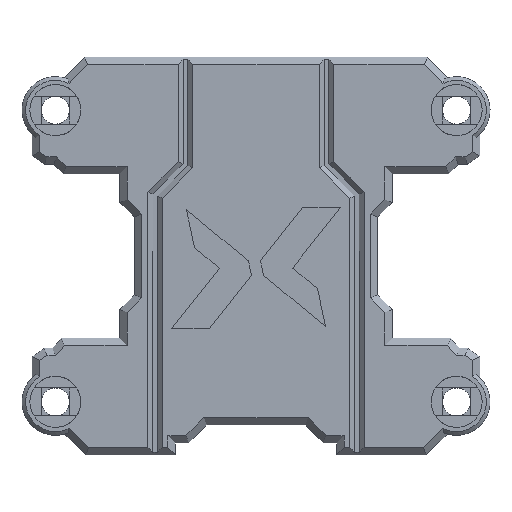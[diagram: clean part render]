
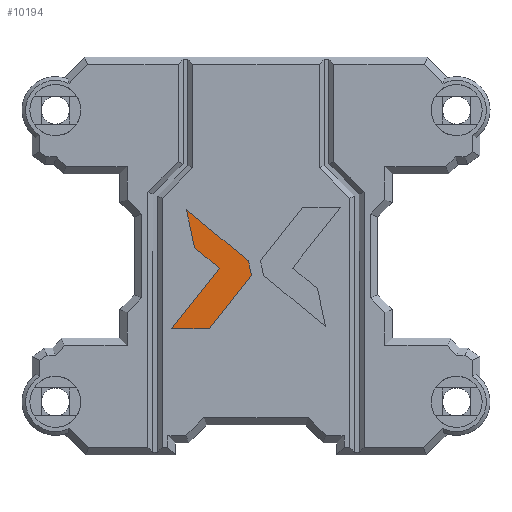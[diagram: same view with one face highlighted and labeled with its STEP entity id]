
A CAD part, top view. The second image highlights one B-rep face of the part: STEP entity #10194.
In plain terms, the highlighted planar face has unit normal (0, 0, 1).
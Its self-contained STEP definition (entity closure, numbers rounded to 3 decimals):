
#9952 = PLANE('',#9953);
#9953 = AXIS2_PLACEMENT_3D('',#9954,#9955,#9956);
#9954 = CARTESIAN_POINT('',(-6.948,-6.,9.));
#9955 = DIRECTION('',(-0.786,0.619,0.));
#9956 = DIRECTION('',(0.619,0.786,0.));
#9978 = PLANE('',#9979);
#9979 = AXIS2_PLACEMENT_3D('',#9980,#9981,#9982);
#9980 = CARTESIAN_POINT('',(-3.837,-6.,9.));
#9981 = DIRECTION('',(0.,-1.,0.));
#9982 = DIRECTION('',(-1.,0.,0.));
#10004 = PLANE('',#10005);
#10005 = AXIS2_PLACEMENT_3D('',#10006,#10007,#10008);
#10006 = CARTESIAN_POINT('',(-0.372,-1.6,9.));
#10007 = DIRECTION('',(0.786,-0.619,0.));
#10008 = DIRECTION('',(-0.619,-0.786,0.));
#10031 = PLANE('',#10032);
#10032 = AXIS2_PLACEMENT_3D('',#10033,#10034,#10035);
#10033 = CARTESIAN_POINT('',(-0.628,-0.4,9.));
#10034 = DIRECTION('',(0.978,0.208,-0.));
#10035 = DIRECTION('',(0.208,-0.978,0.));
#10058 = PLANE('',#10059);
#10059 = AXIS2_PLACEMENT_3D('',#10060,#10061,#10062);
#10060 = CARTESIAN_POINT('',(-5.72,3.8,9.));
#10061 = DIRECTION('',(0.636,0.771,-0.));
#10062 = DIRECTION('',(0.771,-0.636,0.));
#10084 = PLANE('',#10085);
#10085 = AXIS2_PLACEMENT_3D('',#10086,#10087,#10088);
#10086 = CARTESIAN_POINT('',(-5.059,0.689,9.));
#10087 = DIRECTION('',(-0.978,-0.208,0.));
#10088 = DIRECTION('',(-0.208,0.978,0.));
#10108 = PLANE('',#10109);
#10109 = AXIS2_PLACEMENT_3D('',#10110,#10111,#10112);
#10110 = CARTESIAN_POINT('',(-3.011,-1.,9.));
#10111 = DIRECTION('',(-0.636,-0.771,0.));
#10112 = DIRECTION('',(-0.771,0.636,0.));
#10122 = EDGE_CURVE('',#10123,#10125,#10127,.T.);
#10123 = VERTEX_POINT('',#10124);
#10124 = CARTESIAN_POINT('',(-3.011,-1.,9.));
#10125 = VERTEX_POINT('',#10126);
#10126 = CARTESIAN_POINT('',(-5.059,0.689,9.));
#10127 = SURFACE_CURVE('',#10128,(#10132,#10139),.PCURVE_S1.);
#10128 = LINE('',#10129,#10130);
#10129 = CARTESIAN_POINT('',(-3.011,-1.,9.));
#10130 = VECTOR('',#10131,1.);
#10131 = DIRECTION('',(-0.771,0.636,0.));
#10132 = PCURVE('',#10108,#10133);
#10133 = DEFINITIONAL_REPRESENTATION('',(#10134),#10138);
#10134 = LINE('',#10135,#10136);
#10135 = CARTESIAN_POINT('',(0.,0.));
#10136 = VECTOR('',#10137,1.);
#10137 = DIRECTION('',(1.,0.));
#10138 = ( GEOMETRIC_REPRESENTATION_CONTEXT(2) 
PARAMETRIC_REPRESENTATION_CONTEXT() REPRESENTATION_CONTEXT('2D SPACE',''
  ) );
#10139 = PCURVE('',#10140,#10145);
#10140 = PLANE('',#10141);
#10141 = AXIS2_PLACEMENT_3D('',#10142,#10143,#10144);
#10142 = CARTESIAN_POINT('',(-3.816,-1.583,9.));
#10143 = DIRECTION('',(-0.,-0.,-1.));
#10144 = DIRECTION('',(-1.,0.,0.));
#10145 = DEFINITIONAL_REPRESENTATION('',(#10146),#10150);
#10146 = LINE('',#10147,#10148);
#10147 = CARTESIAN_POINT('',(-0.805,0.583));
#10148 = VECTOR('',#10149,1.);
#10149 = DIRECTION('',(0.771,0.636));
#10150 = ( GEOMETRIC_REPRESENTATION_CONTEXT(2) 
PARAMETRIC_REPRESENTATION_CONTEXT() REPRESENTATION_CONTEXT('2D SPACE',''
  ) );
#10194 = ADVANCED_FACE('',(#10195),#10140,.F.);
#10195 = FACE_BOUND('',#10196,.F.);
#10196 = EDGE_LOOP('',(#10197,#10220,#10221,#10244,#10267,#10290,#10313)
  );
#10197 = ORIENTED_EDGE('',*,*,#10198,.T.);
#10198 = EDGE_CURVE('',#10199,#10123,#10201,.T.);
#10199 = VERTEX_POINT('',#10200);
#10200 = CARTESIAN_POINT('',(-6.948,-6.,9.));
#10201 = SURFACE_CURVE('',#10202,(#10206,#10213),.PCURVE_S1.);
#10202 = LINE('',#10203,#10204);
#10203 = CARTESIAN_POINT('',(-6.948,-6.,9.));
#10204 = VECTOR('',#10205,1.);
#10205 = DIRECTION('',(0.619,0.786,0.));
#10206 = PCURVE('',#10140,#10207);
#10207 = DEFINITIONAL_REPRESENTATION('',(#10208),#10212);
#10208 = LINE('',#10209,#10210);
#10209 = CARTESIAN_POINT('',(3.132,-4.417));
#10210 = VECTOR('',#10211,1.);
#10211 = DIRECTION('',(-0.619,0.786));
#10212 = ( GEOMETRIC_REPRESENTATION_CONTEXT(2) 
PARAMETRIC_REPRESENTATION_CONTEXT() REPRESENTATION_CONTEXT('2D SPACE',''
  ) );
#10213 = PCURVE('',#9952,#10214);
#10214 = DEFINITIONAL_REPRESENTATION('',(#10215),#10219);
#10215 = LINE('',#10216,#10217);
#10216 = CARTESIAN_POINT('',(0.,0.));
#10217 = VECTOR('',#10218,1.);
#10218 = DIRECTION('',(1.,0.));
#10219 = ( GEOMETRIC_REPRESENTATION_CONTEXT(2) 
PARAMETRIC_REPRESENTATION_CONTEXT() REPRESENTATION_CONTEXT('2D SPACE',''
  ) );
#10220 = ORIENTED_EDGE('',*,*,#10122,.T.);
#10221 = ORIENTED_EDGE('',*,*,#10222,.T.);
#10222 = EDGE_CURVE('',#10125,#10223,#10225,.T.);
#10223 = VERTEX_POINT('',#10224);
#10224 = CARTESIAN_POINT('',(-5.72,3.8,9.));
#10225 = SURFACE_CURVE('',#10226,(#10230,#10237),.PCURVE_S1.);
#10226 = LINE('',#10227,#10228);
#10227 = CARTESIAN_POINT('',(-5.059,0.689,9.));
#10228 = VECTOR('',#10229,1.);
#10229 = DIRECTION('',(-0.208,0.978,0.));
#10230 = PCURVE('',#10140,#10231);
#10231 = DEFINITIONAL_REPRESENTATION('',(#10232),#10236);
#10232 = LINE('',#10233,#10234);
#10233 = CARTESIAN_POINT('',(1.243,2.272));
#10234 = VECTOR('',#10235,1.);
#10235 = DIRECTION('',(0.208,0.978));
#10236 = ( GEOMETRIC_REPRESENTATION_CONTEXT(2) 
PARAMETRIC_REPRESENTATION_CONTEXT() REPRESENTATION_CONTEXT('2D SPACE',''
  ) );
#10237 = PCURVE('',#10084,#10238);
#10238 = DEFINITIONAL_REPRESENTATION('',(#10239),#10243);
#10239 = LINE('',#10240,#10241);
#10240 = CARTESIAN_POINT('',(0.,0.));
#10241 = VECTOR('',#10242,1.);
#10242 = DIRECTION('',(1.,0.));
#10243 = ( GEOMETRIC_REPRESENTATION_CONTEXT(2) 
PARAMETRIC_REPRESENTATION_CONTEXT() REPRESENTATION_CONTEXT('2D SPACE',''
  ) );
#10244 = ORIENTED_EDGE('',*,*,#10245,.T.);
#10245 = EDGE_CURVE('',#10223,#10246,#10248,.T.);
#10246 = VERTEX_POINT('',#10247);
#10247 = CARTESIAN_POINT('',(-0.628,-0.4,9.));
#10248 = SURFACE_CURVE('',#10249,(#10253,#10260),.PCURVE_S1.);
#10249 = LINE('',#10250,#10251);
#10250 = CARTESIAN_POINT('',(-5.72,3.8,9.));
#10251 = VECTOR('',#10252,1.);
#10252 = DIRECTION('',(0.771,-0.636,0.));
#10253 = PCURVE('',#10140,#10254);
#10254 = DEFINITIONAL_REPRESENTATION('',(#10255),#10259);
#10255 = LINE('',#10256,#10257);
#10256 = CARTESIAN_POINT('',(1.904,5.383));
#10257 = VECTOR('',#10258,1.);
#10258 = DIRECTION('',(-0.771,-0.636));
#10259 = ( GEOMETRIC_REPRESENTATION_CONTEXT(2) 
PARAMETRIC_REPRESENTATION_CONTEXT() REPRESENTATION_CONTEXT('2D SPACE',''
  ) );
#10260 = PCURVE('',#10058,#10261);
#10261 = DEFINITIONAL_REPRESENTATION('',(#10262),#10266);
#10262 = LINE('',#10263,#10264);
#10263 = CARTESIAN_POINT('',(0.,0.));
#10264 = VECTOR('',#10265,1.);
#10265 = DIRECTION('',(1.,0.));
#10266 = ( GEOMETRIC_REPRESENTATION_CONTEXT(2) 
PARAMETRIC_REPRESENTATION_CONTEXT() REPRESENTATION_CONTEXT('2D SPACE',''
  ) );
#10267 = ORIENTED_EDGE('',*,*,#10268,.T.);
#10268 = EDGE_CURVE('',#10246,#10269,#10271,.T.);
#10269 = VERTEX_POINT('',#10270);
#10270 = CARTESIAN_POINT('',(-0.372,-1.6,9.));
#10271 = SURFACE_CURVE('',#10272,(#10276,#10283),.PCURVE_S1.);
#10272 = LINE('',#10273,#10274);
#10273 = CARTESIAN_POINT('',(-0.628,-0.4,9.));
#10274 = VECTOR('',#10275,1.);
#10275 = DIRECTION('',(0.208,-0.978,0.));
#10276 = PCURVE('',#10140,#10277);
#10277 = DEFINITIONAL_REPRESENTATION('',(#10278),#10282);
#10278 = LINE('',#10279,#10280);
#10279 = CARTESIAN_POINT('',(-3.189,1.183));
#10280 = VECTOR('',#10281,1.);
#10281 = DIRECTION('',(-0.208,-0.978));
#10282 = ( GEOMETRIC_REPRESENTATION_CONTEXT(2) 
PARAMETRIC_REPRESENTATION_CONTEXT() REPRESENTATION_CONTEXT('2D SPACE',''
  ) );
#10283 = PCURVE('',#10031,#10284);
#10284 = DEFINITIONAL_REPRESENTATION('',(#10285),#10289);
#10285 = LINE('',#10286,#10287);
#10286 = CARTESIAN_POINT('',(0.,0.));
#10287 = VECTOR('',#10288,1.);
#10288 = DIRECTION('',(1.,0.));
#10289 = ( GEOMETRIC_REPRESENTATION_CONTEXT(2) 
PARAMETRIC_REPRESENTATION_CONTEXT() REPRESENTATION_CONTEXT('2D SPACE',''
  ) );
#10290 = ORIENTED_EDGE('',*,*,#10291,.T.);
#10291 = EDGE_CURVE('',#10269,#10292,#10294,.T.);
#10292 = VERTEX_POINT('',#10293);
#10293 = CARTESIAN_POINT('',(-3.837,-6.,9.));
#10294 = SURFACE_CURVE('',#10295,(#10299,#10306),.PCURVE_S1.);
#10295 = LINE('',#10296,#10297);
#10296 = CARTESIAN_POINT('',(-0.372,-1.6,9.));
#10297 = VECTOR('',#10298,1.);
#10298 = DIRECTION('',(-0.619,-0.786,0.));
#10299 = PCURVE('',#10140,#10300);
#10300 = DEFINITIONAL_REPRESENTATION('',(#10301),#10305);
#10301 = LINE('',#10302,#10303);
#10302 = CARTESIAN_POINT('',(-3.444,-0.017));
#10303 = VECTOR('',#10304,1.);
#10304 = DIRECTION('',(0.619,-0.786));
#10305 = ( GEOMETRIC_REPRESENTATION_CONTEXT(2) 
PARAMETRIC_REPRESENTATION_CONTEXT() REPRESENTATION_CONTEXT('2D SPACE',''
  ) );
#10306 = PCURVE('',#10004,#10307);
#10307 = DEFINITIONAL_REPRESENTATION('',(#10308),#10312);
#10308 = LINE('',#10309,#10310);
#10309 = CARTESIAN_POINT('',(0.,0.));
#10310 = VECTOR('',#10311,1.);
#10311 = DIRECTION('',(1.,0.));
#10312 = ( GEOMETRIC_REPRESENTATION_CONTEXT(2) 
PARAMETRIC_REPRESENTATION_CONTEXT() REPRESENTATION_CONTEXT('2D SPACE',''
  ) );
#10313 = ORIENTED_EDGE('',*,*,#10314,.T.);
#10314 = EDGE_CURVE('',#10292,#10199,#10315,.T.);
#10315 = SURFACE_CURVE('',#10316,(#10320,#10327),.PCURVE_S1.);
#10316 = LINE('',#10317,#10318);
#10317 = CARTESIAN_POINT('',(-3.837,-6.,9.));
#10318 = VECTOR('',#10319,1.);
#10319 = DIRECTION('',(-1.,0.,0.));
#10320 = PCURVE('',#10140,#10321);
#10321 = DEFINITIONAL_REPRESENTATION('',(#10322),#10326);
#10322 = LINE('',#10323,#10324);
#10323 = CARTESIAN_POINT('',(0.021,-4.417));
#10324 = VECTOR('',#10325,1.);
#10325 = DIRECTION('',(1.,0.));
#10326 = ( GEOMETRIC_REPRESENTATION_CONTEXT(2) 
PARAMETRIC_REPRESENTATION_CONTEXT() REPRESENTATION_CONTEXT('2D SPACE',''
  ) );
#10327 = PCURVE('',#9978,#10328);
#10328 = DEFINITIONAL_REPRESENTATION('',(#10329),#10333);
#10329 = LINE('',#10330,#10331);
#10330 = CARTESIAN_POINT('',(0.,-0.));
#10331 = VECTOR('',#10332,1.);
#10332 = DIRECTION('',(1.,0.));
#10333 = ( GEOMETRIC_REPRESENTATION_CONTEXT(2) 
PARAMETRIC_REPRESENTATION_CONTEXT() REPRESENTATION_CONTEXT('2D SPACE',''
  ) );
